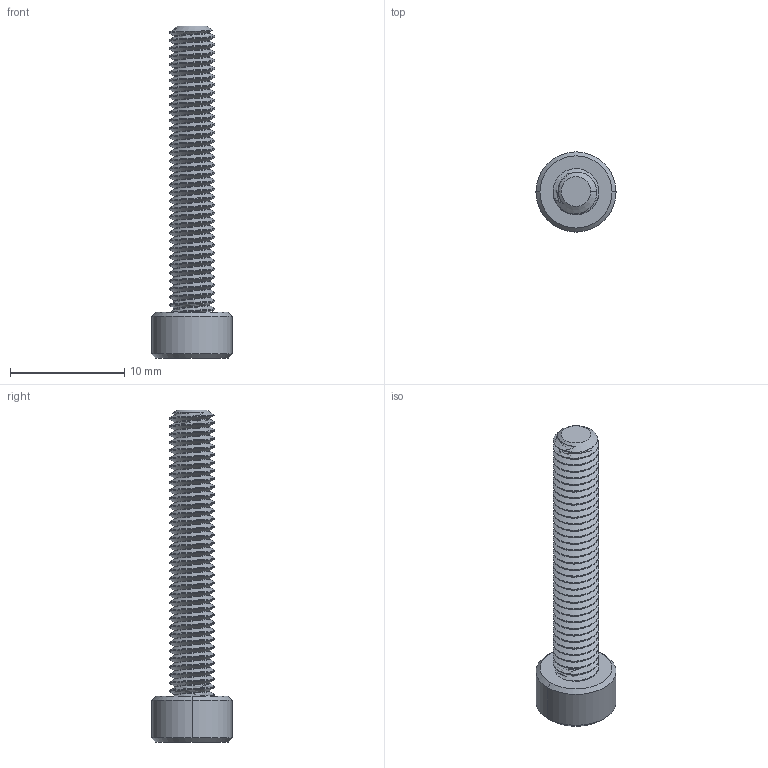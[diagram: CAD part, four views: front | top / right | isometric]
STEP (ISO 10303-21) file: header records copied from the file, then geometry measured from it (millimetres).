
FILE_DESCRIPTION (( 'STEP AP203' ), '1' );
FILE_NAME ('2800-0004-0025.STEP', '2017-04-04T18:12:09', ( '' ), ( '' ), 'SwSTEP 2.0', 'SolidWorks 2016', '' );
FILE_SCHEMA (( 'CONFIG_CONTROL_DESIGN' ));
Length unit declared in the file: millimetre
Products named in the file (1): 2800-0004-0025
Bounding box: 7 x 7 x 29 mm (x, y, z)
Volume: 381.5 mm3; surface area: 660.2 mm2
Topology: 1 solids, 1 shells, 170 faces, 481 edges, 315 vertices
Faces by surface type: cylinder 145, cone 13, plane 10, bspline 2
Entity records: 8799 total; most frequent: CARTESIAN_POINT 5185, ORIENTED_EDGE 962, DIRECTION 544, EDGE_CURVE 481, VERTEX_POINT 315, AXIS2_PLACEMENT_3D 191, EDGE_LOOP 172, FACE_OUTER_BOUND 170
